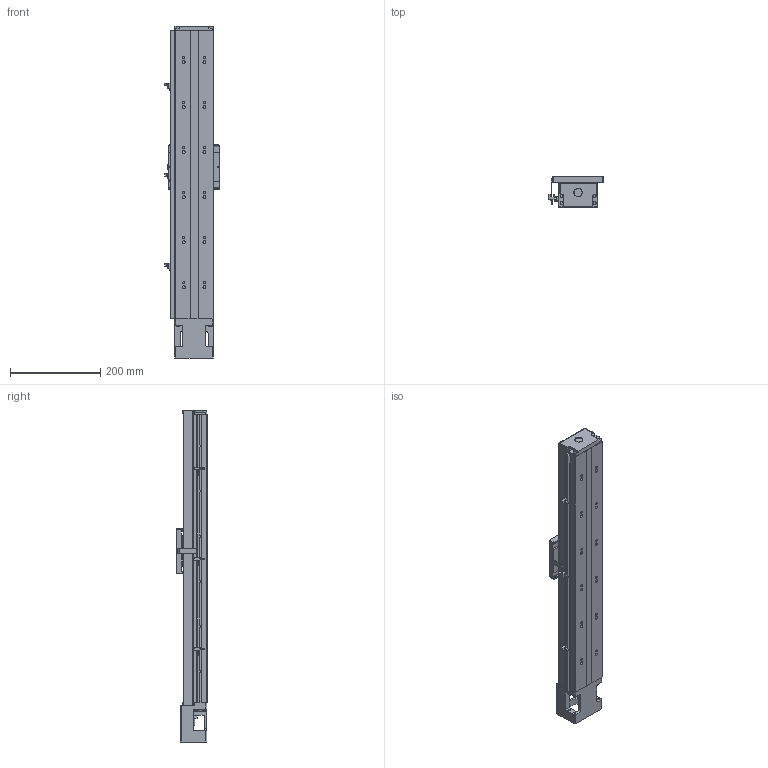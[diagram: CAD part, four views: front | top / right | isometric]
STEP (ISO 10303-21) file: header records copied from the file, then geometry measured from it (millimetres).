
FILE_DESCRIPTION (( 'STEP AP203' ), '1' );
FILE_NAME ('GKAC4686-490-12N-P20-CPXXX-網站用圖.STEP', '2023-04-13T00:59:37', ( '' ), ( '' ), 'SwSTEP 2.0', 'SolidWorks 2019', '' );
FILE_SCHEMA (( 'CONFIG_CONTROL_DESIGN' ));
Length unit declared in the file: millimetre
Products named in the file (3): Group2^GKAC4686-490-12N-P20-CPXXX-網站用圖_defeature_GMT; Group1^GKAC4686-490-12N-P20-CPXXX-網站用圖_defeature_GMT; GKAC4686-490-12N-P20-CPXXX-網站用圖
Assembly tree (2 placements, depth 2):
  GKAC4686-490-12N-P20-CPXXX-網站用圖
    Group1^GKAC4686-490-12N-P20-CPXXX-網站用圖_defeature_GMT
    Group2^GKAC4686-490-12N-P20-CPXXX-網站用圖_defeature_GMT
Bounding box: 121.4 x 68 x 737 mm (x, y, z)
Volume: 1873212.1 mm3; surface area: 568630.4 mm2
Topology: 22 solids, 32 shells, 2763 faces, 7276 edges, 4590 vertices
Faces by surface type: plane 1258, cylinder 813, cone 297, torus 182, bspline 163, sphere 50
Entity records: 94540 total; most frequent: CARTESIAN_POINT 26249, ORIENTED_EDGE 14396, DIRECTION 14216, EDGE_CURVE 7198, AXIS2_PLACEMENT_3D 5199, VERTEX_POINT 4587, LINE 3818, VECTOR 3818
